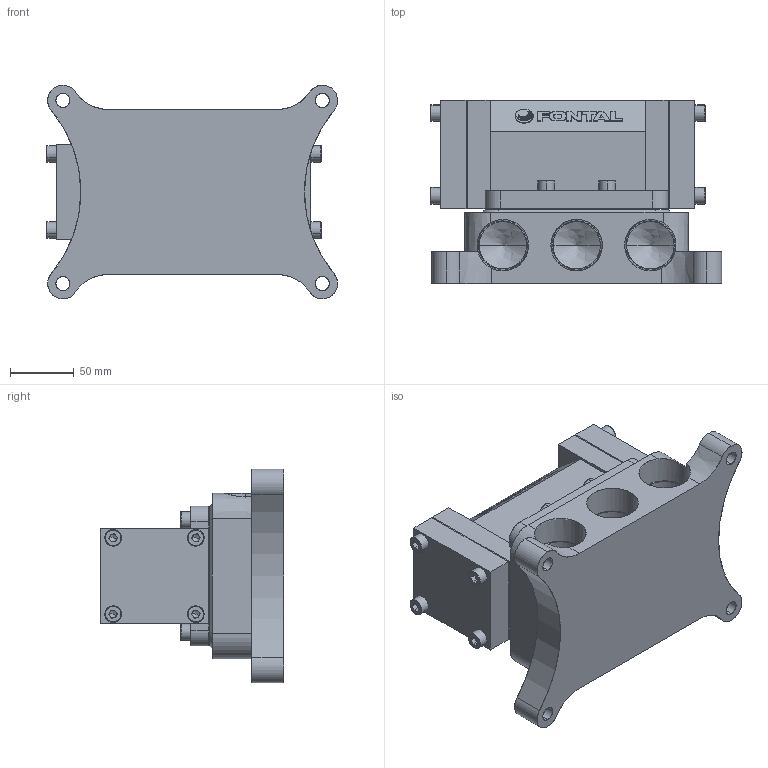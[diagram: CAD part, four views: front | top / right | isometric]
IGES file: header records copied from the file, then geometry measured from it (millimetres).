
Start section: SolidWorks IGES file using analytic representation for surfaces
Global section: file name: D:\Custom\3D繪製\VM\VM25\VMS2425-10.IGS,1; native system: 5HSolidWorks 2014; preprocessor: SolidWorks 2014; author: Chieh_Lu; date: 160114.023412; units: millimetre
Bounding box: 229 x 144 x 168 mm (x, y, z)
Surface area: 299672.6 mm2 (no closed solid volume)
Topology: 0 solids, 0 shells, 589 faces, 7282 edges, 7248 vertices
Faces by surface type: bspline 380, revolution 209
